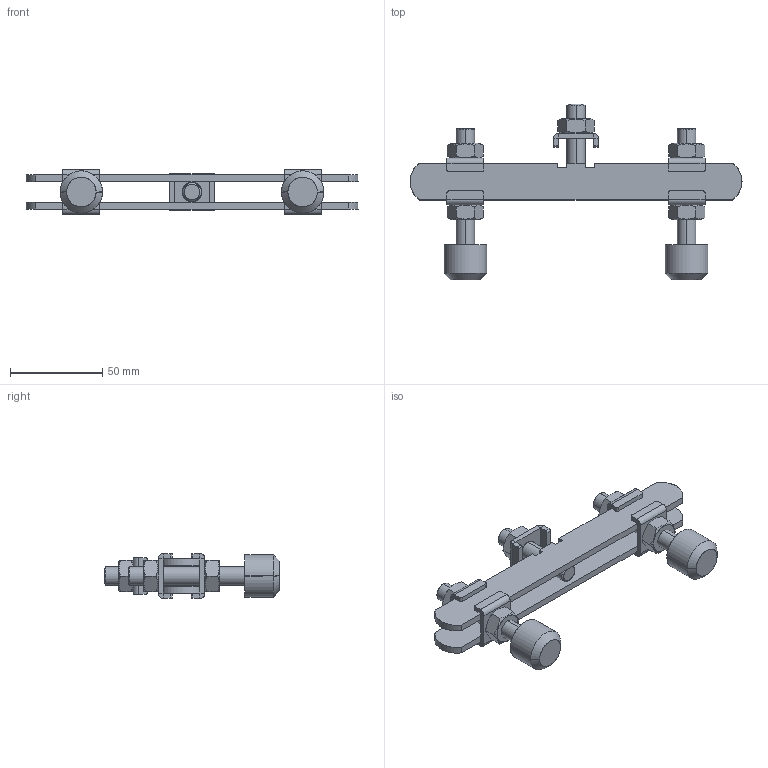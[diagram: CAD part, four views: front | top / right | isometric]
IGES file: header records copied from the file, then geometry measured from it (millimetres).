
Start section: SolidWorks IGES file using analytic representation for surfaces
Global section: file name: C:\Projetos\Ponteiras\PBD\PBD-M10.IGS; native system: SolidWorks 2015; preprocessor: SolidWorks 2015; author: Ricardo; date: 160725.151628; units: millimetre
Bounding box: 180 x 95.35 x 24.3 mm (x, y, z)
Surface area: 40761.4 mm2 (no closed solid volume)
Topology: 0 solids, 0 shells, 304 faces, 3972 edges, 3968 vertices
Faces by surface type: bspline 164, revolution 140
